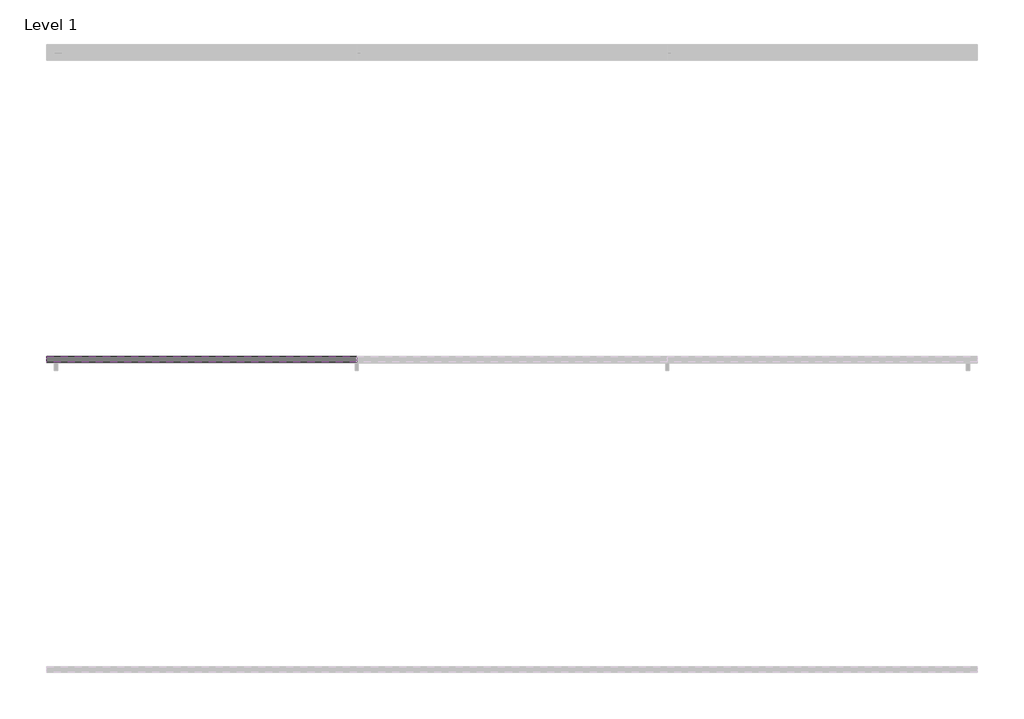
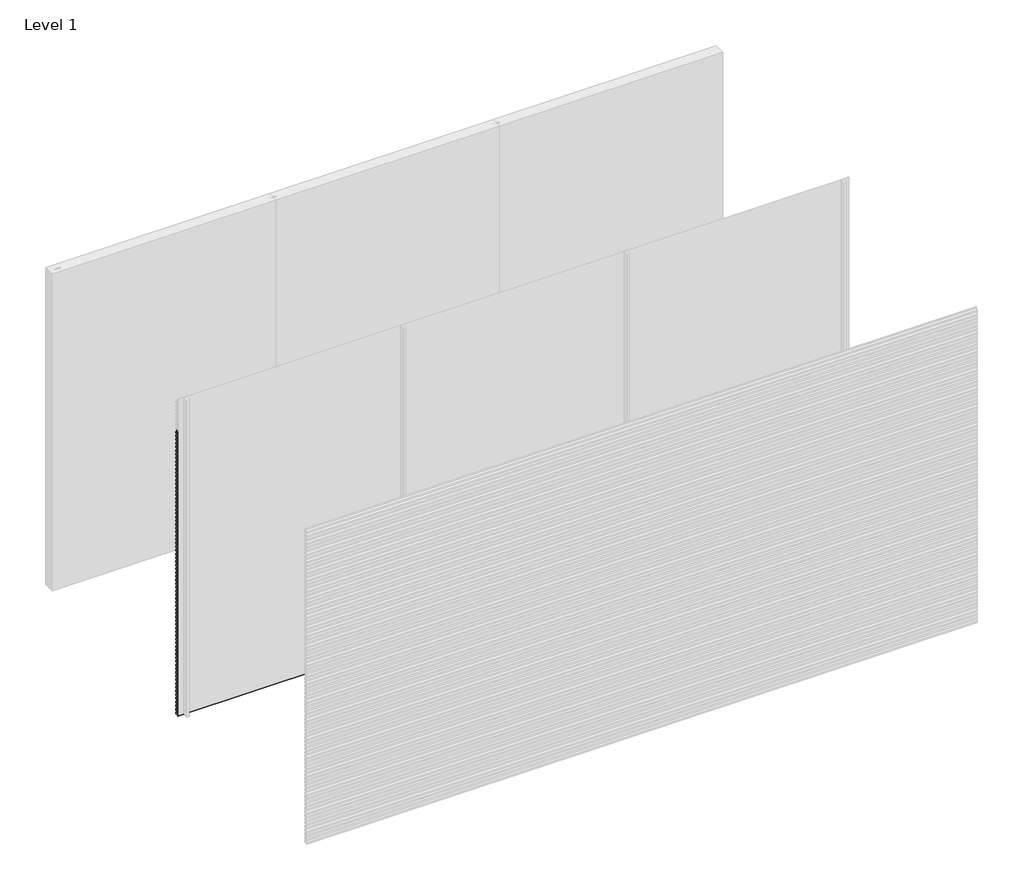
# One storey, part 11 of 17: 82 proxies.
"""IFC4 building model written with IfcOpenShell, lengths in millimetres."""

from ifc_helpers import new_model, si_unit, frame, origin, place, context, project, spatial, polyline, outline, extrude, element, save

model = new_model("IFC4")

# Units and contexts
model_context = context("Model", 3, world=origin())
ifc_project = project(units=[si_unit("LENGTHUNIT", "METRE", prefix="MILLI")], contexts=[model_context])

# Site, building, storey
site = spatial("IfcSite", under=ifc_project)
building = spatial("IfcBuilding", under=site)
storey = spatial("IfcBuildingStorey", under=building, Name="Level 1", Elevation=0.0)

# Proxies
placement = place(None, origin())
element("IfcBuildingElementProxy", 1, Name="Wall Sweeps", at=placement, inside=storey, context=model_context, shape_type="SweptSolid", body=[
    extrude(outline(polyline([(-5961.0, 2671.5), (-5961.0, 2656.5), (-5979.0, 2668.6411533), (-5997.0, 2656.5), (-5997.0, 2671.5), (-5980.0, 2682.9666448), (-5980.0, 2695.0), (-5978.0, 2695.0), (-5978.0, 2682.9666448), (-5961.0, 2671.5)])), frame((0.0, 0.0, 0.0), z_axis=(1.0, 0.0, 0.0), x_axis=(0.0, 1.0, 0.0)), (0.0, 0.0, 1.0), 2000.0),
])
element("IfcBuildingElementProxy", 2, Name="Wall Sweeps", at=placement, inside=storey, context=model_context, shape_type="SweptSolid", body=[
    extrude(outline(polyline([(-5961.0, 2636.5), (-5961.0, 2621.5), (-5979.0, 2633.6411533), (-5997.0, 2621.5), (-5997.0, 2636.5), (-5980.0, 2647.9666448), (-5980.0, 2660.0), (-5978.0, 2660.0), (-5978.0, 2647.9666448), (-5961.0, 2636.5)])), frame((0.0, 0.0, 0.0), z_axis=(1.0, 0.0, 0.0), x_axis=(0.0, 1.0, 0.0)), (0.0, 0.0, 1.0), 2000.0),
])
element("IfcBuildingElementProxy", 3, Name="Wall Sweeps", at=placement, inside=storey, context=model_context, shape_type="SweptSolid", body=[
    extrude(outline(polyline([(-5961.0, 2601.5), (-5961.0, 2586.5), (-5979.0, 2598.6411533), (-5997.0, 2586.5), (-5997.0, 2601.5), (-5980.0, 2612.9666448), (-5980.0, 2625.0), (-5978.0, 2625.0), (-5978.0, 2612.9666448), (-5961.0, 2601.5)])), frame((0.0, 0.0, 0.0), z_axis=(1.0, 0.0, 0.0), x_axis=(0.0, 1.0, 0.0)), (0.0, 0.0, 1.0), 2000.0),
])
element("IfcBuildingElementProxy", 4, Name="Wall Sweeps", at=placement, inside=storey, context=model_context, shape_type="SweptSolid", body=[
    extrude(outline(polyline([(-5961.0, 2566.5), (-5961.0, 2551.5), (-5979.0, 2563.6411533), (-5997.0, 2551.5), (-5997.0, 2566.5), (-5980.0, 2577.9666448), (-5980.0, 2590.0), (-5978.0, 2590.0), (-5978.0, 2577.9666448), (-5961.0, 2566.5)])), frame((0.0, 0.0, 0.0), z_axis=(1.0, 0.0, 0.0), x_axis=(0.0, 1.0, 0.0)), (0.0, 0.0, 1.0), 2000.0),
])
element("IfcBuildingElementProxy", 5, Name="Wall Sweeps", at=placement, inside=storey, context=model_context, shape_type="SweptSolid", body=[
    extrude(outline(polyline([(-5961.0, 2531.5), (-5961.0, 2516.5), (-5979.0, 2528.6411533), (-5997.0, 2516.5), (-5997.0, 2531.5), (-5980.0, 2542.9666448), (-5980.0, 2555.0), (-5978.0, 2555.0), (-5978.0, 2542.9666448), (-5961.0, 2531.5)])), frame((0.0, 0.0, 0.0), z_axis=(1.0, 0.0, 0.0), x_axis=(0.0, 1.0, 0.0)), (0.0, 0.0, 1.0), 2000.0),
])
element("IfcBuildingElementProxy", 6, Name="Wall Sweeps", at=placement, inside=storey, context=model_context, shape_type="SweptSolid", body=[
    extrude(outline(polyline([(-5961.0, 2496.5), (-5961.0, 2481.5), (-5979.0, 2493.6411533), (-5997.0, 2481.5), (-5997.0, 2496.5), (-5980.0, 2507.9666448), (-5980.0, 2520.0), (-5978.0, 2520.0), (-5978.0, 2507.9666448), (-5961.0, 2496.5)])), frame((0.0, 0.0, 0.0), z_axis=(1.0, 0.0, 0.0), x_axis=(0.0, 1.0, 0.0)), (0.0, 0.0, 1.0), 2000.0),
])
element("IfcBuildingElementProxy", 7, Name="Wall Sweeps", at=placement, inside=storey, context=model_context, shape_type="SweptSolid", body=[
    extrude(outline(polyline([(-5961.0, 2461.5), (-5961.0, 2446.5), (-5979.0, 2458.6411533), (-5997.0, 2446.5), (-5997.0, 2461.5), (-5980.0, 2472.9666448), (-5980.0, 2485.0), (-5978.0, 2485.0), (-5978.0, 2472.9666448), (-5961.0, 2461.5)])), frame((0.0, 0.0, 0.0), z_axis=(1.0, 0.0, 0.0), x_axis=(0.0, 1.0, 0.0)), (0.0, 0.0, 1.0), 2000.0),
])
element("IfcBuildingElementProxy", 8, Name="Wall Sweeps", at=placement, inside=storey, context=model_context, shape_type="SweptSolid", body=[
    extrude(outline(polyline([(-5961.0, 2426.5), (-5961.0, 2411.5), (-5979.0, 2423.6411533), (-5997.0, 2411.5), (-5997.0, 2426.5), (-5980.0, 2437.9666448), (-5980.0, 2450.0), (-5978.0, 2450.0), (-5978.0, 2437.9666448), (-5961.0, 2426.5)])), frame((0.0, 0.0, 0.0), z_axis=(1.0, 0.0, 0.0), x_axis=(0.0, 1.0, 0.0)), (0.0, 0.0, 1.0), 2000.0),
])
element("IfcBuildingElementProxy", 9, Name="Wall Sweeps", at=placement, inside=storey, context=model_context, shape_type="SweptSolid", body=[
    extrude(outline(polyline([(-5961.0, 2391.5), (-5961.0, 2376.5), (-5979.0, 2388.6411533), (-5997.0, 2376.5), (-5997.0, 2391.5), (-5980.0, 2402.9666448), (-5980.0, 2415.0), (-5978.0, 2415.0), (-5978.0, 2402.9666448), (-5961.0, 2391.5)])), frame((0.0, 0.0, 0.0), z_axis=(1.0, 0.0, 0.0), x_axis=(0.0, 1.0, 0.0)), (0.0, 0.0, 1.0), 2000.0),
])
element("IfcBuildingElementProxy", 10, Name="Wall Sweeps", at=placement, inside=storey, context=model_context, shape_type="SweptSolid", body=[
    extrude(outline(polyline([(-5961.0, 2356.5), (-5961.0, 2341.5), (-5979.0, 2353.6411533), (-5997.0, 2341.5), (-5997.0, 2356.5), (-5980.0, 2367.9666448), (-5980.0, 2380.0), (-5978.0, 2380.0), (-5978.0, 2367.9666448), (-5961.0, 2356.5)])), frame((0.0, 0.0, 0.0), z_axis=(1.0, 0.0, 0.0), x_axis=(0.0, 1.0, 0.0)), (0.0, 0.0, 1.0), 2000.0),
])
element("IfcBuildingElementProxy", 11, Name="Wall Sweeps", at=placement, inside=storey, context=model_context, shape_type="SweptSolid", body=[
    extrude(outline(polyline([(-5961.0, 2321.5), (-5961.0, 2306.5), (-5979.0, 2318.6411533), (-5997.0, 2306.5), (-5997.0, 2321.5), (-5980.0, 2332.9666448), (-5980.0, 2345.0), (-5978.0, 2345.0), (-5978.0, 2332.9666448), (-5961.0, 2321.5)])), frame((0.0, 0.0, 0.0), z_axis=(1.0, 0.0, 0.0), x_axis=(0.0, 1.0, 0.0)), (0.0, 0.0, 1.0), 2000.0),
])
element("IfcBuildingElementProxy", 12, Name="Wall Sweeps", at=placement, inside=storey, context=model_context, shape_type="SweptSolid", body=[
    extrude(outline(polyline([(-5961.0, 2286.5), (-5961.0, 2271.5), (-5979.0, 2283.6411533), (-5997.0, 2271.5), (-5997.0, 2286.5), (-5980.0, 2297.9666448), (-5980.0, 2310.0), (-5978.0, 2310.0), (-5978.0, 2297.9666448), (-5961.0, 2286.5)])), frame((0.0, 0.0, 0.0), z_axis=(1.0, 0.0, 0.0), x_axis=(0.0, 1.0, 0.0)), (0.0, 0.0, 1.0), 2000.0),
])
element("IfcBuildingElementProxy", 13, Name="Wall Sweeps", at=placement, inside=storey, context=model_context, shape_type="SweptSolid", body=[
    extrude(outline(polyline([(-5961.0, 2251.5), (-5961.0, 2236.5), (-5979.0, 2248.6411533), (-5997.0, 2236.5), (-5997.0, 2251.5), (-5980.0, 2262.9666448), (-5980.0, 2275.0), (-5978.0, 2275.0), (-5978.0, 2262.9666448), (-5961.0, 2251.5)])), frame((0.0, 0.0, 0.0), z_axis=(1.0, 0.0, 0.0), x_axis=(0.0, 1.0, 0.0)), (0.0, 0.0, 1.0), 2000.0),
])
element("IfcBuildingElementProxy", 14, Name="Wall Sweeps", at=placement, inside=storey, context=model_context, shape_type="SweptSolid", body=[
    extrude(outline(polyline([(-5961.0, 2216.5), (-5961.0, 2201.5), (-5979.0, 2213.6411533), (-5997.0, 2201.5), (-5997.0, 2216.5), (-5980.0, 2227.9666448), (-5980.0, 2240.0), (-5978.0, 2240.0), (-5978.0, 2227.9666448), (-5961.0, 2216.5)])), frame((0.0, 0.0, 0.0), z_axis=(1.0, 0.0, 0.0), x_axis=(0.0, 1.0, 0.0)), (0.0, 0.0, 1.0), 2000.0),
])
element("IfcBuildingElementProxy", 15, Name="Wall Sweeps", at=placement, inside=storey, context=model_context, shape_type="SweptSolid", body=[
    extrude(outline(polyline([(-5961.0, 2181.5), (-5961.0, 2166.5), (-5979.0, 2178.6411533), (-5997.0, 2166.5), (-5997.0, 2181.5), (-5980.0, 2192.9666448), (-5980.0, 2205.0), (-5978.0, 2205.0), (-5978.0, 2192.9666448), (-5961.0, 2181.5)])), frame((0.0, 0.0, 0.0), z_axis=(1.0, 0.0, 0.0), x_axis=(0.0, 1.0, 0.0)), (0.0, 0.0, 1.0), 2000.0),
])
element("IfcBuildingElementProxy", 16, Name="Wall Sweeps", at=placement, inside=storey, context=model_context, shape_type="SweptSolid", body=[
    extrude(outline(polyline([(-5961.0, 2146.5), (-5961.0, 2131.5), (-5979.0, 2143.6411533), (-5997.0, 2131.5), (-5997.0, 2146.5), (-5980.0, 2157.9666448), (-5980.0, 2170.0), (-5978.0, 2170.0), (-5978.0, 2157.9666448), (-5961.0, 2146.5)])), frame((0.0, 0.0, 0.0), z_axis=(1.0, 0.0, 0.0), x_axis=(0.0, 1.0, 0.0)), (0.0, 0.0, 1.0), 2000.0),
])
element("IfcBuildingElementProxy", 17, Name="Wall Sweeps", at=placement, inside=storey, context=model_context, shape_type="SweptSolid", body=[
    extrude(outline(polyline([(-5961.0, 2111.5), (-5961.0, 2096.5), (-5979.0, 2108.6411533), (-5997.0, 2096.5), (-5997.0, 2111.5), (-5980.0, 2122.9666448), (-5980.0, 2135.0), (-5978.0, 2135.0), (-5978.0, 2122.9666448), (-5961.0, 2111.5)])), frame((0.0, 0.0, 0.0), z_axis=(1.0, 0.0, 0.0), x_axis=(0.0, 1.0, 0.0)), (0.0, 0.0, 1.0), 2000.0),
])
element("IfcBuildingElementProxy", 18, Name="Wall Sweeps", at=placement, inside=storey, context=model_context, shape_type="SweptSolid", body=[
    extrude(outline(polyline([(-5961.0, 2076.5), (-5961.0, 2061.5), (-5979.0, 2073.6411533), (-5997.0, 2061.5), (-5997.0, 2076.5), (-5980.0, 2087.9666448), (-5980.0, 2100.0), (-5978.0, 2100.0), (-5978.0, 2087.9666448), (-5961.0, 2076.5)])), frame((0.0, 0.0, 0.0), z_axis=(1.0, 0.0, 0.0), x_axis=(0.0, 1.0, 0.0)), (0.0, 0.0, 1.0), 2000.0),
])
element("IfcBuildingElementProxy", 19, Name="Wall Sweeps", at=placement, inside=storey, context=model_context, shape_type="SweptSolid", body=[
    extrude(outline(polyline([(-5961.0, 2041.5), (-5961.0, 2026.5), (-5979.0, 2038.6411533), (-5997.0, 2026.5), (-5997.0, 2041.5), (-5980.0, 2052.9666448), (-5980.0, 2065.0), (-5978.0, 2065.0), (-5978.0, 2052.9666448), (-5961.0, 2041.5)])), frame((0.0, 0.0, 0.0), z_axis=(1.0, 0.0, 0.0), x_axis=(0.0, 1.0, 0.0)), (0.0, 0.0, 1.0), 2000.0),
])
element("IfcBuildingElementProxy", 20, Name="Wall Sweeps", at=placement, inside=storey, context=model_context, shape_type="SweptSolid", body=[
    extrude(outline(polyline([(-5961.0, 2006.5), (-5961.0, 1991.5), (-5979.0, 2003.6411533), (-5997.0, 1991.5), (-5997.0, 2006.5), (-5980.0, 2017.9666448), (-5980.0, 2030.0), (-5978.0, 2030.0), (-5978.0, 2017.9666448), (-5961.0, 2006.5)])), frame((0.0, 0.0, 0.0), z_axis=(1.0, 0.0, 0.0), x_axis=(0.0, 1.0, 0.0)), (0.0, 0.0, 1.0), 2000.0),
])
element("IfcBuildingElementProxy", 21, Name="Wall Sweeps", at=placement, inside=storey, context=model_context, shape_type="SweptSolid", body=[
    extrude(outline(polyline([(-5961.0, 1971.5), (-5961.0, 1956.5), (-5979.0, 1968.6411533), (-5997.0, 1956.5), (-5997.0, 1971.5), (-5980.0, 1982.9666448), (-5980.0, 1995.0), (-5978.0, 1995.0), (-5978.0, 1982.9666448), (-5961.0, 1971.5)])), frame((0.0, 0.0, 0.0), z_axis=(1.0, 0.0, 0.0), x_axis=(0.0, 1.0, 0.0)), (0.0, 0.0, 1.0), 2000.0),
])
element("IfcBuildingElementProxy", 22, Name="Wall Sweeps", at=placement, inside=storey, context=model_context, shape_type="SweptSolid", body=[
    extrude(outline(polyline([(-5961.0, 1936.5), (-5961.0, 1921.5), (-5979.0, 1933.6411533), (-5997.0, 1921.5), (-5997.0, 1936.5), (-5980.0, 1947.9666448), (-5980.0, 1960.0), (-5978.0, 1960.0), (-5978.0, 1947.9666448), (-5961.0, 1936.5)])), frame((0.0, 0.0, 0.0), z_axis=(1.0, 0.0, 0.0), x_axis=(0.0, 1.0, 0.0)), (0.0, 0.0, 1.0), 2000.0),
])
element("IfcBuildingElementProxy", 23, Name="Wall Sweeps", at=placement, inside=storey, context=model_context, shape_type="SweptSolid", body=[
    extrude(outline(polyline([(-5961.0, 1901.5), (-5961.0, 1886.5), (-5979.0, 1898.6411533), (-5997.0, 1886.5), (-5997.0, 1901.5), (-5980.0, 1912.9666448), (-5980.0, 1925.0), (-5978.0, 1925.0), (-5978.0, 1912.9666448), (-5961.0, 1901.5)])), frame((0.0, 0.0, 0.0), z_axis=(1.0, 0.0, 0.0), x_axis=(0.0, 1.0, 0.0)), (0.0, 0.0, 1.0), 2000.0),
])
element("IfcBuildingElementProxy", 24, Name="Wall Sweeps", at=placement, inside=storey, context=model_context, shape_type="SweptSolid", body=[
    extrude(outline(polyline([(-5961.0, 1866.5), (-5961.0, 1851.5), (-5979.0, 1863.6411533), (-5997.0, 1851.5), (-5997.0, 1866.5), (-5980.0, 1877.9666448), (-5980.0, 1890.0), (-5978.0, 1890.0), (-5978.0, 1877.9666448), (-5961.0, 1866.5)])), frame((0.0, 0.0, 0.0), z_axis=(1.0, 0.0, 0.0), x_axis=(0.0, 1.0, 0.0)), (0.0, 0.0, 1.0), 2000.0),
])
element("IfcBuildingElementProxy", 25, Name="Wall Sweeps", at=placement, inside=storey, context=model_context, shape_type="SweptSolid", body=[
    extrude(outline(polyline([(-5961.0, 1831.5), (-5961.0, 1816.5), (-5979.0, 1828.6411533), (-5997.0, 1816.5), (-5997.0, 1831.5), (-5980.0, 1842.9666448), (-5980.0, 1855.0), (-5978.0, 1855.0), (-5978.0, 1842.9666448), (-5961.0, 1831.5)])), frame((0.0, 0.0, 0.0), z_axis=(1.0, 0.0, 0.0), x_axis=(0.0, 1.0, 0.0)), (0.0, 0.0, 1.0), 2000.0),
])
element("IfcBuildingElementProxy", 26, Name="Wall Sweeps", at=placement, inside=storey, context=model_context, shape_type="SweptSolid", body=[
    extrude(outline(polyline([(-5961.0, 1796.5), (-5961.0, 1781.5), (-5979.0, 1793.6411533), (-5997.0, 1781.5), (-5997.0, 1796.5), (-5980.0, 1807.9666448), (-5980.0, 1820.0), (-5978.0, 1820.0), (-5978.0, 1807.9666448), (-5961.0, 1796.5)])), frame((0.0, 0.0, 0.0), z_axis=(1.0, 0.0, 0.0), x_axis=(0.0, 1.0, 0.0)), (0.0, 0.0, 1.0), 2000.0),
])
element("IfcBuildingElementProxy", 27, Name="Wall Sweeps", at=placement, inside=storey, context=model_context, shape_type="SweptSolid", body=[
    extrude(outline(polyline([(-5961.0, 1761.5), (-5961.0, 1746.5), (-5979.0, 1758.6411533), (-5997.0, 1746.5), (-5997.0, 1761.5), (-5980.0, 1772.9666448), (-5980.0, 1785.0), (-5978.0, 1785.0), (-5978.0, 1772.9666448), (-5961.0, 1761.5)])), frame((0.0, 0.0, 0.0), z_axis=(1.0, 0.0, 0.0), x_axis=(0.0, 1.0, 0.0)), (0.0, 0.0, 1.0), 2000.0),
])
element("IfcBuildingElementProxy", 28, Name="Wall Sweeps", at=placement, inside=storey, context=model_context, shape_type="SweptSolid", body=[
    extrude(outline(polyline([(-5961.0, 1726.5), (-5961.0, 1711.5), (-5979.0, 1723.6411533), (-5997.0, 1711.5), (-5997.0, 1726.5), (-5980.0, 1737.9666448), (-5980.0, 1750.0), (-5978.0, 1750.0), (-5978.0, 1737.9666448), (-5961.0, 1726.5)])), frame((0.0, 0.0, 0.0), z_axis=(1.0, 0.0, 0.0), x_axis=(0.0, 1.0, 0.0)), (0.0, 0.0, 1.0), 2000.0),
])
element("IfcBuildingElementProxy", 29, Name="Wall Sweeps", at=placement, inside=storey, context=model_context, shape_type="SweptSolid", body=[
    extrude(outline(polyline([(-5961.0, 1691.5), (-5961.0, 1676.5), (-5979.0, 1688.6411533), (-5997.0, 1676.5), (-5997.0, 1691.5), (-5980.0, 1702.9666448), (-5980.0, 1715.0), (-5978.0, 1715.0), (-5978.0, 1702.9666448), (-5961.0, 1691.5)])), frame((0.0, 0.0, 0.0), z_axis=(1.0, 0.0, 0.0), x_axis=(0.0, 1.0, 0.0)), (0.0, 0.0, 1.0), 2000.0),
])
element("IfcBuildingElementProxy", 30, Name="Wall Sweeps", at=placement, inside=storey, context=model_context, shape_type="SweptSolid", body=[
    extrude(outline(polyline([(-5961.0, 1656.5), (-5961.0, 1641.5), (-5979.0, 1653.6411533), (-5997.0, 1641.5), (-5997.0, 1656.5), (-5980.0, 1667.9666448), (-5980.0, 1680.0), (-5978.0, 1680.0), (-5978.0, 1667.9666448), (-5961.0, 1656.5)])), frame((0.0, 0.0, 0.0), z_axis=(1.0, 0.0, 0.0), x_axis=(0.0, 1.0, 0.0)), (0.0, 0.0, 1.0), 2000.0),
])
element("IfcBuildingElementProxy", 31, Name="Wall Sweeps", at=placement, inside=storey, context=model_context, shape_type="SweptSolid", body=[
    extrude(outline(polyline([(-5961.0, 1621.5), (-5961.0, 1606.5), (-5979.0, 1618.6411533), (-5997.0, 1606.5), (-5997.0, 1621.5), (-5980.0, 1632.9666448), (-5980.0, 1645.0), (-5978.0, 1645.0), (-5978.0, 1632.9666448), (-5961.0, 1621.5)])), frame((0.0, 0.0, 0.0), z_axis=(1.0, 0.0, 0.0), x_axis=(0.0, 1.0, 0.0)), (0.0, 0.0, 1.0), 2000.0),
])
element("IfcBuildingElementProxy", 32, Name="Wall Sweeps", at=placement, inside=storey, context=model_context, shape_type="SweptSolid", body=[
    extrude(outline(polyline([(-5961.0, 1586.5), (-5961.0, 1571.5), (-5979.0, 1583.6411533), (-5997.0, 1571.5), (-5997.0, 1586.5), (-5980.0, 1597.9666448), (-5980.0, 1610.0), (-5978.0, 1610.0), (-5978.0, 1597.9666448), (-5961.0, 1586.5)])), frame((0.0, 0.0, 0.0), z_axis=(1.0, 0.0, 0.0), x_axis=(0.0, 1.0, 0.0)), (0.0, 0.0, 1.0), 2000.0),
])
element("IfcBuildingElementProxy", 33, Name="Wall Sweeps", at=placement, inside=storey, context=model_context, shape_type="SweptSolid", body=[
    extrude(outline(polyline([(-5961.0, 1551.5), (-5961.0, 1536.5), (-5979.0, 1548.6411533), (-5997.0, 1536.5), (-5997.0, 1551.5), (-5980.0, 1562.9666448), (-5980.0, 1575.0), (-5978.0, 1575.0), (-5978.0, 1562.9666448), (-5961.0, 1551.5)])), frame((0.0, 0.0, 0.0), z_axis=(1.0, 0.0, 0.0), x_axis=(0.0, 1.0, 0.0)), (0.0, 0.0, 1.0), 2000.0),
])
element("IfcBuildingElementProxy", 34, Name="Wall Sweeps", at=placement, inside=storey, context=model_context, shape_type="SweptSolid", body=[
    extrude(outline(polyline([(-5961.0, 1516.5), (-5961.0, 1501.5), (-5979.0, 1513.6411533), (-5997.0, 1501.5), (-5997.0, 1516.5), (-5980.0, 1527.9666448), (-5980.0, 1540.0), (-5978.0, 1540.0), (-5978.0, 1527.9666448), (-5961.0, 1516.5)])), frame((0.0, 0.0, 0.0), z_axis=(1.0, 0.0, 0.0), x_axis=(0.0, 1.0, 0.0)), (0.0, 0.0, 1.0), 2000.0),
])
element("IfcBuildingElementProxy", 35, Name="Wall Sweeps", at=placement, inside=storey, context=model_context, shape_type="SweptSolid", body=[
    extrude(outline(polyline([(-5961.0, 1481.5), (-5961.0, 1466.5), (-5979.0, 1478.6411533), (-5997.0, 1466.5), (-5997.0, 1481.5), (-5980.0, 1492.9666448), (-5980.0, 1505.0), (-5978.0, 1505.0), (-5978.0, 1492.9666448), (-5961.0, 1481.5)])), frame((0.0, 0.0, 0.0), z_axis=(1.0, 0.0, 0.0), x_axis=(0.0, 1.0, 0.0)), (0.0, 0.0, 1.0), 2000.0),
])
element("IfcBuildingElementProxy", 36, Name="Wall Sweeps", at=placement, inside=storey, context=model_context, shape_type="SweptSolid", body=[
    extrude(outline(polyline([(-5961.0, 1446.5), (-5961.0, 1431.5), (-5979.0, 1443.6411533), (-5997.0, 1431.5), (-5997.0, 1446.5), (-5980.0, 1457.9666448), (-5980.0, 1470.0), (-5978.0, 1470.0), (-5978.0, 1457.9666448), (-5961.0, 1446.5)])), frame((0.0, 0.0, 0.0), z_axis=(1.0, 0.0, 0.0), x_axis=(0.0, 1.0, 0.0)), (0.0, 0.0, 1.0), 2000.0),
])
element("IfcBuildingElementProxy", 37, Name="Wall Sweeps", at=placement, inside=storey, context=model_context, shape_type="SweptSolid", body=[
    extrude(outline(polyline([(-5961.0, 1411.5), (-5961.0, 1396.5), (-5979.0, 1408.6411533), (-5997.0, 1396.5), (-5997.0, 1411.5), (-5980.0, 1422.9666448), (-5980.0, 1435.0), (-5978.0, 1435.0), (-5978.0, 1422.9666448), (-5961.0, 1411.5)])), frame((0.0, 0.0, 0.0), z_axis=(1.0, 0.0, 0.0), x_axis=(0.0, 1.0, 0.0)), (0.0, 0.0, 1.0), 2000.0),
])
element("IfcBuildingElementProxy", 38, Name="Wall Sweeps", at=placement, inside=storey, context=model_context, shape_type="SweptSolid", body=[
    extrude(outline(polyline([(-5961.0, 1376.5), (-5961.0, 1361.5), (-5979.0, 1373.6411533), (-5997.0, 1361.5), (-5997.0, 1376.5), (-5980.0, 1387.9666448), (-5980.0, 1400.0), (-5978.0, 1400.0), (-5978.0, 1387.9666448), (-5961.0, 1376.5)])), frame((0.0, 0.0, 0.0), z_axis=(1.0, 0.0, 0.0), x_axis=(0.0, 1.0, 0.0)), (0.0, 0.0, 1.0), 2000.0),
])
element("IfcBuildingElementProxy", 39, Name="Wall Sweeps", at=placement, inside=storey, context=model_context, shape_type="SweptSolid", body=[
    extrude(outline(polyline([(-5961.0, 1341.5), (-5961.0, 1326.5), (-5979.0, 1338.6411533), (-5997.0, 1326.5), (-5997.0, 1341.5), (-5980.0, 1352.9666448), (-5980.0, 1365.0), (-5978.0, 1365.0), (-5978.0, 1352.9666448), (-5961.0, 1341.5)])), frame((0.0, 0.0, 0.0), z_axis=(1.0, 0.0, 0.0), x_axis=(0.0, 1.0, 0.0)), (0.0, 0.0, 1.0), 2000.0),
])
element("IfcBuildingElementProxy", 40, Name="Wall Sweeps", at=placement, inside=storey, context=model_context, shape_type="SweptSolid", body=[
    extrude(outline(polyline([(-5961.0, 1306.5), (-5961.0, 1291.5), (-5979.0, 1303.6411533), (-5997.0, 1291.5), (-5997.0, 1306.5), (-5980.0, 1317.9666448), (-5980.0, 1330.0), (-5978.0, 1330.0), (-5978.0, 1317.9666448), (-5961.0, 1306.5)])), frame((0.0, 0.0, 0.0), z_axis=(1.0, 0.0, 0.0), x_axis=(0.0, 1.0, 0.0)), (0.0, 0.0, 1.0), 2000.0),
])
element("IfcBuildingElementProxy", 41, Name="Wall Sweeps", at=placement, inside=storey, context=model_context, shape_type="SweptSolid", body=[
    extrude(outline(polyline([(-5961.0, 1271.5), (-5961.0, 1256.5), (-5979.0, 1268.6411533), (-5997.0, 1256.5), (-5997.0, 1271.5), (-5980.0, 1282.9666448), (-5980.0, 1295.0), (-5978.0, 1295.0), (-5978.0, 1282.9666448), (-5961.0, 1271.5)])), frame((0.0, 0.0, 0.0), z_axis=(1.0, 0.0, 0.0), x_axis=(0.0, 1.0, 0.0)), (0.0, 0.0, 1.0), 2000.0),
])
element("IfcBuildingElementProxy", 42, Name="Wall Sweeps", at=placement, inside=storey, context=model_context, shape_type="SweptSolid", body=[
    extrude(outline(polyline([(-5961.0, 1236.5), (-5961.0, 1221.5), (-5979.0, 1233.6411533), (-5997.0, 1221.5), (-5997.0, 1236.5), (-5980.0, 1247.9666448), (-5980.0, 1260.0), (-5978.0, 1260.0), (-5978.0, 1247.9666448), (-5961.0, 1236.5)])), frame((0.0, 0.0, 0.0), z_axis=(1.0, 0.0, 0.0), x_axis=(0.0, 1.0, 0.0)), (0.0, 0.0, 1.0), 2000.0),
])
element("IfcBuildingElementProxy", 43, Name="Wall Sweeps", at=placement, inside=storey, context=model_context, shape_type="SweptSolid", body=[
    extrude(outline(polyline([(-5961.0, 1201.5), (-5961.0, 1186.5), (-5979.0, 1198.6411533), (-5997.0, 1186.5), (-5997.0, 1201.5), (-5980.0, 1212.9666448), (-5980.0, 1225.0), (-5978.0, 1225.0), (-5978.0, 1212.9666448), (-5961.0, 1201.5)])), frame((0.0, 0.0, 0.0), z_axis=(1.0, 0.0, 0.0), x_axis=(0.0, 1.0, 0.0)), (0.0, 0.0, 1.0), 2000.0),
])
element("IfcBuildingElementProxy", 44, Name="Wall Sweeps", at=placement, inside=storey, context=model_context, shape_type="SweptSolid", body=[
    extrude(outline(polyline([(-5961.0, 1166.5), (-5961.0, 1151.5), (-5979.0, 1163.6411533), (-5997.0, 1151.5), (-5997.0, 1166.5), (-5980.0, 1177.9666448), (-5980.0, 1190.0), (-5978.0, 1190.0), (-5978.0, 1177.9666448), (-5961.0, 1166.5)])), frame((0.0, 0.0, 0.0), z_axis=(1.0, 0.0, 0.0), x_axis=(0.0, 1.0, 0.0)), (0.0, 0.0, 1.0), 2000.0),
])
element("IfcBuildingElementProxy", 45, Name="Wall Sweeps", at=placement, inside=storey, context=model_context, shape_type="SweptSolid", body=[
    extrude(outline(polyline([(-5961.0, 1131.5), (-5961.0, 1116.5), (-5979.0, 1128.6411533), (-5997.0, 1116.5), (-5997.0, 1131.5), (-5980.0, 1142.9666448), (-5980.0, 1155.0), (-5978.0, 1155.0), (-5978.0, 1142.9666448), (-5961.0, 1131.5)])), frame((0.0, 0.0, 0.0), z_axis=(1.0, 0.0, 0.0), x_axis=(0.0, 1.0, 0.0)), (0.0, 0.0, 1.0), 2000.0),
])
element("IfcBuildingElementProxy", 46, Name="Wall Sweeps", at=placement, inside=storey, context=model_context, shape_type="SweptSolid", body=[
    extrude(outline(polyline([(-5961.0, 1096.5), (-5961.0, 1081.5), (-5979.0, 1093.6411533), (-5997.0, 1081.5), (-5997.0, 1096.5), (-5980.0, 1107.9666448), (-5980.0, 1120.0), (-5978.0, 1120.0), (-5978.0, 1107.9666448), (-5961.0, 1096.5)])), frame((0.0, 0.0, 0.0), z_axis=(1.0, 0.0, 0.0), x_axis=(0.0, 1.0, 0.0)), (0.0, 0.0, 1.0), 2000.0),
])
element("IfcBuildingElementProxy", 47, Name="Wall Sweeps", at=placement, inside=storey, context=model_context, shape_type="SweptSolid", body=[
    extrude(outline(polyline([(-5961.0, 1061.5), (-5961.0, 1046.5), (-5979.0, 1058.6411533), (-5997.0, 1046.5), (-5997.0, 1061.5), (-5980.0, 1072.9666448), (-5980.0, 1085.0), (-5978.0, 1085.0), (-5978.0, 1072.9666448), (-5961.0, 1061.5)])), frame((0.0, 0.0, 0.0), z_axis=(1.0, 0.0, 0.0), x_axis=(0.0, 1.0, 0.0)), (0.0, 0.0, 1.0), 2000.0),
])
element("IfcBuildingElementProxy", 48, Name="Wall Sweeps", at=placement, inside=storey, context=model_context, shape_type="SweptSolid", body=[
    extrude(outline(polyline([(-5961.0, 1026.5), (-5961.0, 1011.5), (-5979.0, 1023.6411533), (-5997.0, 1011.5), (-5997.0, 1026.5), (-5980.0, 1037.9666448), (-5980.0, 1050.0), (-5978.0, 1050.0), (-5978.0, 1037.9666448), (-5961.0, 1026.5)])), frame((0.0, 0.0, 0.0), z_axis=(1.0, 0.0, 0.0), x_axis=(0.0, 1.0, 0.0)), (0.0, 0.0, 1.0), 2000.0),
])
element("IfcBuildingElementProxy", 49, Name="Wall Sweeps", at=placement, inside=storey, context=model_context, shape_type="SweptSolid", body=[
    extrude(outline(polyline([(-5961.0, 991.5), (-5961.0, 976.5), (-5979.0, 988.6411533), (-5997.0, 976.5), (-5997.0, 991.5), (-5980.0, 1002.9666448), (-5980.0, 1015.0), (-5978.0, 1015.0), (-5978.0, 1002.9666448), (-5961.0, 991.5)])), frame((0.0, 0.0, 0.0), z_axis=(1.0, 0.0, 0.0), x_axis=(0.0, 1.0, 0.0)), (0.0, 0.0, 1.0), 2000.0),
])
element("IfcBuildingElementProxy", 50, Name="Wall Sweeps", at=placement, inside=storey, context=model_context, shape_type="SweptSolid", body=[
    extrude(outline(polyline([(-5961.0, 956.5), (-5961.0, 941.5), (-5979.0, 953.6411533), (-5997.0, 941.5), (-5997.0, 956.5), (-5980.0, 967.9666448), (-5980.0, 980.0), (-5978.0, 980.0), (-5978.0, 967.9666448), (-5961.0, 956.5)])), frame((0.0, 0.0, 0.0), z_axis=(1.0, 0.0, 0.0), x_axis=(0.0, 1.0, 0.0)), (0.0, 0.0, 1.0), 2000.0),
])
element("IfcBuildingElementProxy", 51, Name="Wall Sweeps", at=placement, inside=storey, context=model_context, shape_type="SweptSolid", body=[
    extrude(outline(polyline([(-5961.0, 921.5), (-5961.0, 906.5), (-5979.0, 918.6411533), (-5997.0, 906.5), (-5997.0, 921.5), (-5980.0, 932.9666448), (-5980.0, 945.0), (-5978.0, 945.0), (-5978.0, 932.9666448), (-5961.0, 921.5)])), frame((0.0, 0.0, 0.0), z_axis=(1.0, 0.0, 0.0), x_axis=(0.0, 1.0, 0.0)), (0.0, 0.0, 1.0), 2000.0),
])
element("IfcBuildingElementProxy", 52, Name="Wall Sweeps", at=placement, inside=storey, context=model_context, shape_type="SweptSolid", body=[
    extrude(outline(polyline([(-5961.0, 886.5), (-5961.0, 871.5), (-5979.0, 883.6411533), (-5997.0, 871.5), (-5997.0, 886.5), (-5980.0, 897.9666448), (-5980.0, 910.0), (-5978.0, 910.0), (-5978.0, 897.9666448), (-5961.0, 886.5)])), frame((0.0, 0.0, 0.0), z_axis=(1.0, 0.0, 0.0), x_axis=(0.0, 1.0, 0.0)), (0.0, 0.0, 1.0), 2000.0),
])
element("IfcBuildingElementProxy", 53, Name="Wall Sweeps", at=placement, inside=storey, context=model_context, shape_type="SweptSolid", body=[
    extrude(outline(polyline([(-5961.0, 851.5), (-5961.0, 836.5), (-5979.0, 848.6411533), (-5997.0, 836.5), (-5997.0, 851.5), (-5980.0, 862.9666448), (-5980.0, 875.0), (-5978.0, 875.0), (-5978.0, 862.9666448), (-5961.0, 851.5)])), frame((0.0, 0.0, 0.0), z_axis=(1.0, 0.0, 0.0), x_axis=(0.0, 1.0, 0.0)), (0.0, 0.0, 1.0), 2000.0),
])
element("IfcBuildingElementProxy", 54, Name="Wall Sweeps", at=placement, inside=storey, context=model_context, shape_type="SweptSolid", body=[
    extrude(outline(polyline([(-5961.0, 816.5), (-5961.0, 801.5), (-5979.0, 813.6411533), (-5997.0, 801.5), (-5997.0, 816.5), (-5980.0, 827.9666448), (-5980.0, 840.0), (-5978.0, 840.0), (-5978.0, 827.9666448), (-5961.0, 816.5)])), frame((0.0, 0.0, 0.0), z_axis=(1.0, 0.0, 0.0), x_axis=(0.0, 1.0, 0.0)), (0.0, 0.0, 1.0), 2000.0),
])
element("IfcBuildingElementProxy", 55, Name="Wall Sweeps", at=placement, inside=storey, context=model_context, shape_type="SweptSolid", body=[
    extrude(outline(polyline([(-5961.0, 781.5), (-5961.0, 766.5), (-5979.0, 778.6411533), (-5997.0, 766.5), (-5997.0, 781.5), (-5980.0, 792.9666448), (-5980.0, 805.0), (-5978.0, 805.0), (-5978.0, 792.9666448), (-5961.0, 781.5)])), frame((0.0, 0.0, 0.0), z_axis=(1.0, 0.0, 0.0), x_axis=(0.0, 1.0, 0.0)), (0.0, 0.0, 1.0), 2000.0),
])
element("IfcBuildingElementProxy", 56, Name="Wall Sweeps", at=placement, inside=storey, context=model_context, shape_type="SweptSolid", body=[
    extrude(outline(polyline([(-5961.0, 746.5), (-5961.0, 731.5), (-5979.0, 743.6411533), (-5997.0, 731.5), (-5997.0, 746.5), (-5980.0, 757.9666448), (-5980.0, 770.0), (-5978.0, 770.0), (-5978.0, 757.9666448), (-5961.0, 746.5)])), frame((0.0, 0.0, 0.0), z_axis=(1.0, 0.0, 0.0), x_axis=(0.0, 1.0, 0.0)), (0.0, 0.0, 1.0), 2000.0),
])
element("IfcBuildingElementProxy", 57, Name="Wall Sweeps", at=placement, inside=storey, context=model_context, shape_type="SweptSolid", body=[
    extrude(outline(polyline([(-5961.0, 711.5), (-5961.0, 696.5), (-5979.0, 708.6411533), (-5997.0, 696.5), (-5997.0, 711.5), (-5980.0, 722.9666448), (-5980.0, 735.0), (-5978.0, 735.0), (-5978.0, 722.9666448), (-5961.0, 711.5)])), frame((0.0, 0.0, 0.0), z_axis=(1.0, 0.0, 0.0), x_axis=(0.0, 1.0, 0.0)), (0.0, 0.0, 1.0), 2000.0),
])
element("IfcBuildingElementProxy", 58, Name="Wall Sweeps", at=placement, inside=storey, context=model_context, shape_type="SweptSolid", body=[
    extrude(outline(polyline([(-5961.0, 676.5), (-5961.0, 661.5), (-5979.0, 673.6411533), (-5997.0, 661.5), (-5997.0, 676.5), (-5980.0, 687.9666448), (-5980.0, 700.0), (-5978.0, 700.0), (-5978.0, 687.9666448), (-5961.0, 676.5)])), frame((0.0, 0.0, 0.0), z_axis=(1.0, 0.0, 0.0), x_axis=(0.0, 1.0, 0.0)), (0.0, 0.0, 1.0), 2000.0),
])
element("IfcBuildingElementProxy", 59, Name="Wall Sweeps", at=placement, inside=storey, context=model_context, shape_type="SweptSolid", body=[
    extrude(outline(polyline([(-5961.0, 641.5), (-5961.0, 626.5), (-5979.0, 638.6411533), (-5997.0, 626.5), (-5997.0, 641.5), (-5980.0, 652.9666448), (-5980.0, 665.0), (-5978.0, 665.0), (-5978.0, 652.9666448), (-5961.0, 641.5)])), frame((0.0, 0.0, 0.0), z_axis=(1.0, 0.0, 0.0), x_axis=(0.0, 1.0, 0.0)), (0.0, 0.0, 1.0), 2000.0),
])
element("IfcBuildingElementProxy", 60, Name="Wall Sweeps", at=placement, inside=storey, context=model_context, shape_type="SweptSolid", body=[
    extrude(outline(polyline([(-5961.0, 606.5), (-5961.0, 591.5), (-5979.0, 603.6411533), (-5997.0, 591.5), (-5997.0, 606.5), (-5980.0, 617.9666448), (-5980.0, 630.0), (-5978.0, 630.0), (-5978.0, 617.9666448), (-5961.0, 606.5)])), frame((0.0, 0.0, 0.0), z_axis=(1.0, 0.0, 0.0), x_axis=(0.0, 1.0, 0.0)), (0.0, 0.0, 1.0), 2000.0),
])
element("IfcBuildingElementProxy", 61, Name="Wall Sweeps", at=placement, inside=storey, context=model_context, shape_type="SweptSolid", body=[
    extrude(outline(polyline([(-5961.0, 571.5), (-5961.0, 556.5), (-5979.0, 568.6411533), (-5997.0, 556.5), (-5997.0, 571.5), (-5980.0, 582.9666448), (-5980.0, 595.0), (-5978.0, 595.0), (-5978.0, 582.9666448), (-5961.0, 571.5)])), frame((0.0, 0.0, 0.0), z_axis=(1.0, 0.0, 0.0), x_axis=(0.0, 1.0, 0.0)), (0.0, 0.0, 1.0), 2000.0),
])
element("IfcBuildingElementProxy", 62, Name="Wall Sweeps", at=placement, inside=storey, context=model_context, shape_type="SweptSolid", body=[
    extrude(outline(polyline([(-5961.0, 536.5), (-5961.0, 521.5), (-5979.0, 533.6411533), (-5997.0, 521.5), (-5997.0, 536.5), (-5980.0, 547.9666448), (-5980.0, 560.0), (-5978.0, 560.0), (-5978.0, 547.9666448), (-5961.0, 536.5)])), frame((0.0, 0.0, 0.0), z_axis=(1.0, 0.0, 0.0), x_axis=(0.0, 1.0, 0.0)), (0.0, 0.0, 1.0), 2000.0),
])
element("IfcBuildingElementProxy", 63, Name="Wall Sweeps", at=placement, inside=storey, context=model_context, shape_type="SweptSolid", body=[
    extrude(outline(polyline([(-5961.0, 501.5), (-5961.0, 486.5), (-5979.0, 498.6411533), (-5997.0, 486.5), (-5997.0, 501.5), (-5980.0, 512.9666448), (-5980.0, 525.0), (-5978.0, 525.0), (-5978.0, 512.9666448), (-5961.0, 501.5)])), frame((0.0, 0.0, 0.0), z_axis=(1.0, 0.0, 0.0), x_axis=(0.0, 1.0, 0.0)), (0.0, 0.0, 1.0), 2000.0),
])
element("IfcBuildingElementProxy", 64, Name="Wall Sweeps", at=placement, inside=storey, context=model_context, shape_type="SweptSolid", body=[
    extrude(outline(polyline([(-5961.0, 466.5), (-5961.0, 451.5), (-5979.0, 463.6411533), (-5997.0, 451.5), (-5997.0, 466.5), (-5980.0, 477.9666448), (-5980.0, 490.0), (-5978.0, 490.0), (-5978.0, 477.9666448), (-5961.0, 466.5)])), frame((0.0, 0.0, 0.0), z_axis=(1.0, 0.0, 0.0), x_axis=(0.0, 1.0, 0.0)), (0.0, 0.0, 1.0), 2000.0),
])
element("IfcBuildingElementProxy", 65, Name="Wall Sweeps", at=placement, inside=storey, context=model_context, shape_type="SweptSolid", body=[
    extrude(outline(polyline([(-5961.0, 431.5), (-5961.0, 416.5), (-5979.0, 428.6411533), (-5997.0, 416.5), (-5997.0, 431.5), (-5980.0, 442.9666448), (-5980.0, 455.0), (-5978.0, 455.0), (-5978.0, 442.9666448), (-5961.0, 431.5)])), frame((0.0, 0.0, 0.0), z_axis=(1.0, 0.0, 0.0), x_axis=(0.0, 1.0, 0.0)), (0.0, 0.0, 1.0), 2000.0),
])
element("IfcBuildingElementProxy", 66, Name="Wall Sweeps", at=placement, inside=storey, context=model_context, shape_type="SweptSolid", body=[
    extrude(outline(polyline([(-5961.0, 396.5), (-5961.0, 381.5), (-5979.0, 393.6411533), (-5997.0, 381.5), (-5997.0, 396.5), (-5980.0, 407.9666448), (-5980.0, 420.0), (-5978.0, 420.0), (-5978.0, 407.9666448), (-5961.0, 396.5)])), frame((0.0, 0.0, 0.0), z_axis=(1.0, 0.0, 0.0), x_axis=(0.0, 1.0, 0.0)), (0.0, 0.0, 1.0), 2000.0),
])
element("IfcBuildingElementProxy", 67, Name="Wall Sweeps", at=placement, inside=storey, context=model_context, shape_type="SweptSolid", body=[
    extrude(outline(polyline([(-5961.0, 361.5), (-5961.0, 346.5), (-5979.0, 358.6411533), (-5997.0, 346.5), (-5997.0, 361.5), (-5980.0, 372.9666448), (-5980.0, 385.0), (-5978.0, 385.0), (-5978.0, 372.9666448), (-5961.0, 361.5)])), frame((0.0, 0.0, 0.0), z_axis=(1.0, 0.0, 0.0), x_axis=(0.0, 1.0, 0.0)), (0.0, 0.0, 1.0), 2000.0),
])
element("IfcBuildingElementProxy", 68, Name="Wall Sweeps", at=placement, inside=storey, context=model_context, shape_type="SweptSolid", body=[
    extrude(outline(polyline([(-5961.0, 326.5), (-5961.0, 311.5), (-5979.0, 323.6411533), (-5997.0, 311.5), (-5997.0, 326.5), (-5980.0, 337.9666448), (-5980.0, 350.0), (-5978.0, 350.0), (-5978.0, 337.9666448), (-5961.0, 326.5)])), frame((0.0, 0.0, 0.0), z_axis=(1.0, 0.0, 0.0), x_axis=(0.0, 1.0, 0.0)), (0.0, 0.0, 1.0), 2000.0),
])
element("IfcBuildingElementProxy", 69, Name="Wall Sweeps", at=placement, inside=storey, context=model_context, shape_type="SweptSolid", body=[
    extrude(outline(polyline([(-5961.0, 291.5), (-5961.0, 276.5), (-5979.0, 288.6411533), (-5997.0, 276.5), (-5997.0, 291.5), (-5980.0, 302.9666448), (-5980.0, 315.0), (-5978.0, 315.0), (-5978.0, 302.9666448), (-5961.0, 291.5)])), frame((0.0, 0.0, 0.0), z_axis=(1.0, 0.0, 0.0), x_axis=(0.0, 1.0, 0.0)), (0.0, 0.0, 1.0), 2000.0),
])
element("IfcBuildingElementProxy", 70, Name="Wall Sweeps", at=placement, inside=storey, context=model_context, shape_type="SweptSolid", body=[
    extrude(outline(polyline([(-5961.0, 256.5), (-5961.0, 241.5), (-5979.0, 253.6411533), (-5997.0, 241.5), (-5997.0, 256.5), (-5980.0, 267.9666448), (-5980.0, 280.0), (-5978.0, 280.0), (-5978.0, 267.9666448), (-5961.0, 256.5)])), frame((0.0, 0.0, 0.0), z_axis=(1.0, 0.0, 0.0), x_axis=(0.0, 1.0, 0.0)), (0.0, 0.0, 1.0), 2000.0),
])
element("IfcBuildingElementProxy", 71, Name="Wall Sweeps", at=placement, inside=storey, context=model_context, shape_type="SweptSolid", body=[
    extrude(outline(polyline([(-5961.0, 221.5), (-5961.0, 206.5), (-5979.0, 218.6411533), (-5997.0, 206.5), (-5997.0, 221.5), (-5980.0, 232.9666448), (-5980.0, 245.0), (-5978.0, 245.0), (-5978.0, 232.9666448), (-5961.0, 221.5)])), frame((0.0, 0.0, 0.0), z_axis=(1.0, 0.0, 0.0), x_axis=(0.0, 1.0, 0.0)), (0.0, 0.0, 1.0), 2000.0),
])
element("IfcBuildingElementProxy", 72, Name="Wall Sweeps", at=placement, inside=storey, context=model_context, shape_type="SweptSolid", body=[
    extrude(outline(polyline([(-5961.0, 186.5), (-5961.0, 171.5), (-5979.0, 183.6411533), (-5997.0, 171.5), (-5997.0, 186.5), (-5980.0, 197.9666448), (-5980.0, 210.0), (-5978.0, 210.0), (-5978.0, 197.9666448), (-5961.0, 186.5)])), frame((0.0, 0.0, 0.0), z_axis=(1.0, 0.0, 0.0), x_axis=(0.0, 1.0, 0.0)), (0.0, 0.0, 1.0), 2000.0),
])
element("IfcBuildingElementProxy", 73, Name="Wall Sweeps", at=placement, inside=storey, context=model_context, shape_type="SweptSolid", body=[
    extrude(outline(polyline([(-5961.0, 151.5), (-5961.0, 136.5), (-5979.0, 148.6411533), (-5997.0, 136.5), (-5997.0, 151.5), (-5980.0, 162.9666448), (-5980.0, 175.0), (-5978.0, 175.0), (-5978.0, 162.9666448), (-5961.0, 151.5)])), frame((0.0, 0.0, 0.0), z_axis=(1.0, 0.0, 0.0), x_axis=(0.0, 1.0, 0.0)), (0.0, 0.0, 1.0), 2000.0),
])
element("IfcBuildingElementProxy", 74, Name="Wall Sweeps", at=placement, inside=storey, context=model_context, shape_type="SweptSolid", body=[
    extrude(outline(polyline([(-5961.0, 116.5), (-5961.0, 101.5), (-5979.0, 113.6411533), (-5997.0, 101.5), (-5997.0, 116.5), (-5980.0, 127.9666448), (-5980.0, 140.0), (-5978.0, 140.0), (-5978.0, 127.9666448), (-5961.0, 116.5)])), frame((0.0, 0.0, 0.0), z_axis=(1.0, 0.0, 0.0), x_axis=(0.0, 1.0, 0.0)), (0.0, 0.0, 1.0), 2000.0),
])
element("IfcBuildingElementProxy", 75, Name="Wall Sweeps", at=placement, inside=storey, context=model_context, shape_type="SweptSolid", body=[
    extrude(outline(polyline([(-5961.0, 81.5), (-5961.0, 66.5), (-5979.0, 78.6411533), (-5997.0, 66.5), (-5997.0, 81.5), (-5980.0, 92.9666448), (-5980.0, 105.0), (-5978.0, 105.0), (-5978.0, 92.9666448), (-5961.0, 81.5)])), frame((0.0, 0.0, 0.0), z_axis=(1.0, 0.0, 0.0), x_axis=(0.0, 1.0, 0.0)), (0.0, 0.0, 1.0), 2000.0),
])
element("IfcBuildingElementProxy", 76, Name="Wall Sweeps", at=placement, inside=storey, context=model_context, shape_type="SweptSolid", body=[
    extrude(outline(polyline([(-5961.0, 46.5), (-5961.0, 31.5), (-5979.0, 43.6411533), (-5997.0, 31.5), (-5997.0, 46.5), (-5980.0, 57.9666448), (-5980.0, 70.0), (-5978.0, 70.0), (-5978.0, 57.9666448), (-5961.0, 46.5)])), frame((0.0, 0.0, 0.0), z_axis=(1.0, 0.0, 0.0), x_axis=(0.0, 1.0, 0.0)), (0.0, 0.0, 1.0), 2000.0),
])
element("IfcBuildingElementProxy", 77, Name="Wall Sweeps", at=placement, inside=storey, context=model_context, shape_type="SweptSolid", body=[
    extrude(outline(polyline([(-5961.0, 11.5), (-5961.0, -3.5), (-5979.0, 8.6411533), (-5997.0, -3.5), (-5997.0, 11.5), (-5980.0, 22.9666448), (-5980.0, 35.0), (-5978.0, 35.0), (-5978.0, 22.9666448), (-5961.0, 11.5)])), frame((0.0, 0.0, 0.0), z_axis=(1.0, 0.0, 0.0), x_axis=(0.0, 1.0, 0.0)), (0.0, 0.0, 1.0), 2000.0),
])
element("IfcBuildingElementProxy", 78, Name="Wall Sweeps", at=placement, inside=storey, context=model_context, shape_type="SweptSolid", body=[
    extrude(outline(polyline([(-5961.0, 2951.5), (-5961.0, 2936.5), (-5979.0, 2948.6411533), (-5997.0, 2936.5), (-5997.0, 2951.5), (-5980.0, 2962.9666448), (-5980.0, 2975.0), (-5978.0, 2975.0), (-5978.0, 2962.9666448), (-5961.0, 2951.5)])), frame((2000.0, 0.0, 0.0), z_axis=(1.0, 0.0, 0.0), x_axis=(0.0, 1.0, 0.0)), (0.0, 0.0, 1.0), 2000.0),
])
element("IfcBuildingElementProxy", 79, Name="Wall Sweeps", at=placement, inside=storey, context=model_context, shape_type="SweptSolid", body=[
    extrude(outline(polyline([(-5961.0, 2916.5), (-5961.0, 2901.5), (-5979.0, 2913.6411533), (-5997.0, 2901.5), (-5997.0, 2916.5), (-5980.0, 2927.9666448), (-5980.0, 2940.0), (-5978.0, 2940.0), (-5978.0, 2927.9666448), (-5961.0, 2916.5)])), frame((2000.0, 0.0, 0.0), z_axis=(1.0, 0.0, 0.0), x_axis=(0.0, 1.0, 0.0)), (0.0, 0.0, 1.0), 2000.0),
])
element("IfcBuildingElementProxy", 80, Name="Wall Sweeps", at=placement, inside=storey, context=model_context, shape_type="SweptSolid", body=[
    extrude(outline(polyline([(-5961.0, 2881.5), (-5961.0, 2866.5), (-5979.0, 2878.6411533), (-5997.0, 2866.5), (-5997.0, 2881.5), (-5980.0, 2892.9666448), (-5980.0, 2905.0), (-5978.0, 2905.0), (-5978.0, 2892.9666448), (-5961.0, 2881.5)])), frame((2000.0, 0.0, 0.0), z_axis=(1.0, 0.0, 0.0), x_axis=(0.0, 1.0, 0.0)), (0.0, 0.0, 1.0), 2000.0),
])
element("IfcBuildingElementProxy", 81, Name="Wall Sweeps", at=placement, inside=storey, context=model_context, shape_type="SweptSolid", body=[
    extrude(outline(polyline([(-5961.0, 2846.5), (-5961.0, 2831.5), (-5979.0, 2843.6411533), (-5997.0, 2831.5), (-5997.0, 2846.5), (-5980.0, 2857.9666448), (-5980.0, 2870.0), (-5978.0, 2870.0), (-5978.0, 2857.9666448), (-5961.0, 2846.5)])), frame((2000.0, 0.0, 0.0), z_axis=(1.0, 0.0, 0.0), x_axis=(0.0, 1.0, 0.0)), (0.0, 0.0, 1.0), 2000.0),
])
element("IfcBuildingElementProxy", 82, Name="Wall Sweeps", at=placement, inside=storey, context=model_context, shape_type="SweptSolid", body=[
    extrude(outline(polyline([(-5961.0, 2811.5), (-5961.0, 2796.5), (-5979.0, 2808.6411533), (-5997.0, 2796.5), (-5997.0, 2811.5), (-5980.0, 2822.9666448), (-5980.0, 2835.0), (-5978.0, 2835.0), (-5978.0, 2822.9666448), (-5961.0, 2811.5)])), frame((2000.0, 0.0, 0.0), z_axis=(1.0, 0.0, 0.0), x_axis=(0.0, 1.0, 0.0)), (0.0, 0.0, 1.0), 2000.0),
])

save(model, "model.ifc")
